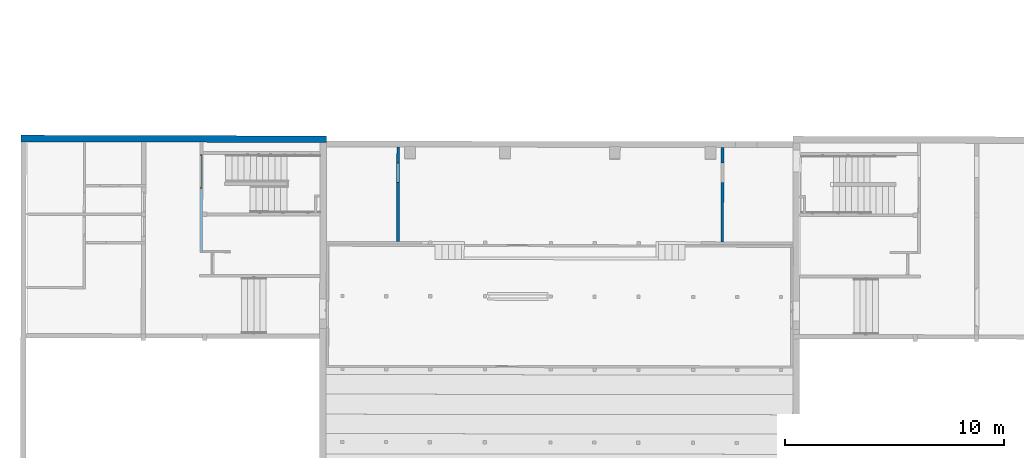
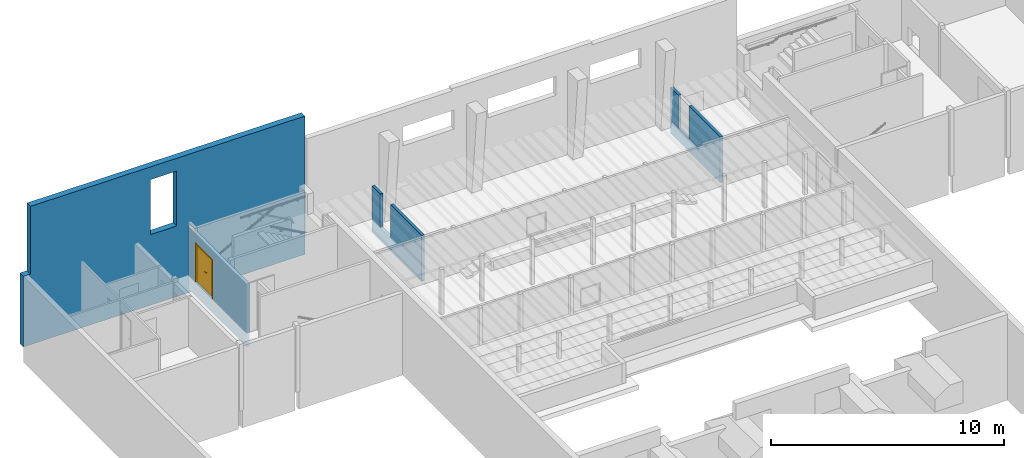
# One storey, part 18 of 24: 3 walls, 1 door, 2 openings, plus 1 element that does not belong to this part.
"""IFC2X3 building model written with IfcOpenShell, lengths in metres."""

from ifc_helpers import new_model, entity, si_unit, converted_unit, derived_unit, direction, frame, frame_2d, origin, place, context, subcontext, project, spatial, polyline, rectangle, outline, extrude, faceted_brep, source, transform, mapped, material, material_list, layer, layer_set, layer_usage, type_object, type_shapes, element, fill, save


model = new_model("IFC2X3")

# Units and contexts
model_context = context("Model", 3, precision=1e-05, world=origin(), true_north=direction((6.123233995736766e-17, 1.0)))
body_context = subcontext(model_context, "Body", "Model", "MODEL_VIEW")
ifc_project = project(units=[si_unit("LENGTHUNIT", "METRE"), si_unit("AREAUNIT", "SQUARE_METRE"), converted_unit("PLANEANGLEUNIT", "DEGREE", entity("IfcPlaneAngleMeasure", 0.017453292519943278), si_unit("PLANEANGLEUNIT", "RADIAN"), dimensions=[0, 0, 0, 0, 0, 0, 0]), derived_unit("THERMALTRANSMITTANCEUNIT", [(si_unit("MASSUNIT", "GRAM", prefix="KILO"), 1), (si_unit("THERMODYNAMICTEMPERATUREUNIT", "KELVIN"), -1), (si_unit("TIMEUNIT", "SECOND"), -3)])], contexts=[model_context])

# Site, building, storey
site_placement = place(None, frame((1253.6752467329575, 2072.143113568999, 91.49999999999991), z_axis=(0.0, 0.0, 1.0), x_axis=(0.7237211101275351, 0.6900925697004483, 0.0)))
site = spatial("IfcSite", under=ifc_project, at=site_placement, Name="Surface", CompositionType="ELEMENT")
building_placement = place(site_placement, origin())
building = spatial("IfcBuilding", under=site, at=building_placement, CompositionType="ELEMENT")
storey_placement = place(building_placement, frame((0.0, 0.0, -7.049999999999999)))
storey = spatial("IfcBuildingStorey", under=building, at=storey_placement, Name="R-1", CompositionType="ELEMENT", Elevation=-7.049999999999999)

# Wall
ifc_material_1 = material(Name="OMD_Béton blanc")
ifc_layer_1 = layer(ifc_material_1, 0.12999999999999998)
ifc_layer_set_1 = layer_set([ifc_layer_1], Name="Mur de base:MUR 13")
wall_type_1 = type_object("IfcWallType", Name="Mur de base:MUR 13", PredefinedType="STANDARD", material=ifc_layer_set_1)
wall_1_placement = place(storey_placement, frame((178.27648964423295, 15.49141698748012, 0.0), z_axis=(0.0, 0.0, 1.0), x_axis=(-0.6919753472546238, -0.721921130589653, 0.0)))
element("IfcWall", 1, at=wall_1_placement, inside=storey, type_object=wall_type_1, Name="Mur de base:MUR 13", ObjectType="Mur de base:MUR 13", context=body_context, shape_type="Brep", body=[
    faceted_brep([(0.12977476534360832, -0.06499999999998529, 0.0), (4.300182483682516, -0.06499999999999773, 0.0), (4.300182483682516, -0.06499999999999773, 2.3950000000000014), (1.6157906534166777, -0.06499999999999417, 2.3950000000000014), (1.6157906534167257, -0.06500000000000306, 0.6400000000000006), (0.715790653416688, -0.06499999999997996, 0.6400000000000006), (0.7157906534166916, -0.06499999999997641, 2.3950000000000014), (0.00017843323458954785, -0.06500000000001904, 2.3950000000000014), (0.00017843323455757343, -0.06499999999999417, 0.0), (4.300004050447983, 0.06500000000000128, 0.0), (0.1297747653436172, 0.0649999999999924, 0.0), (0.0, 0.06500000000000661, 0.0), (0.0, 0.06500000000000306, 2.3950000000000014), (0.7157906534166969, 0.06499999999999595, 2.3950000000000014), (0.7157906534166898, 0.06499999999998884, 0.6400000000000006), (1.6157906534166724, 0.06500000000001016, 0.6400000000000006), (1.6157906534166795, 0.06500000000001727, 2.3950000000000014), (4.300004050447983, 0.06500000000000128, 2.3950000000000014)], [[[0, 1, 2, 3, 4, 5, 6, 7, 8]], [[9, 10, 11, 12, 13, 14, 15, 16, 17]], [[2, 17, 16, 3]], [[1, 0, 10, 9]], [[17, 2, 1, 9]], [[11, 10, 0, 8]], [[7, 12, 11, 8]], [[15, 4, 3, 16]], [[5, 14, 13, 6]], [[4, 15, 14, 5]], [[12, 7, 6, 13]]]),
])

# Wall, openings, door
ifc_layer_usage = layer_usage(ifc_layer_set_1, "AXIS2", "POSITIVE", -0.06499999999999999)
wall_2_placement = place(storey_placement, frame((171.9330059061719, 21.845365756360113, 0.0), z_axis=(0.0, 0.0, 1.0), x_axis=(-0.6909838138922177, -0.7228702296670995, 0.0)))
wall_2 = element("IfcWallStandardCase", 2, at=wall_2_placement, inside=storey, type_object=wall_type_1, material=ifc_layer_usage, Name="Mur de base:MUR 13", ObjectType="Mur de base:MUR 13", context=body_context, shape_type="SweptSolid", body=[
    extrude(outline(polyline([(-0.07244415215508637, -2.0239981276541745), (0.05755633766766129, -2.0239981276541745), (0.05736417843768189, -1.9539981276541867), (0.04376181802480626, 3.001086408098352), (-0.08623818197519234, 3.000907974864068), (-0.07244415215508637, -2.0239981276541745)])), frame((3.0011334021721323, 0.013000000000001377, 0.0), z_axis=(0.0, 0.0, 1.0), x_axis=(0.0027451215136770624, 0.9999962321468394, 0.0)), (0.0, 0.0, 1.0), 3.2999999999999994),
])
opening_1_placement = place(storey_placement, frame((171.9330059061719, 21.845365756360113, 0.0), z_axis=(0.0, 0.0, 1.0), x_axis=(-0.6909838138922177, -0.7228702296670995, 0.0)))
element("IfcOpeningElement", 3, at=opening_1_placement, cuts=wall_2, Name="Mur de base:MUR 13:1", ObjectType="Opening", context=body_context, shape_type="SweptSolid", body=[
    extrude(rectangle(XDim=2.085, YDim=1.5499999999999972, at=frame_2d((-3.3306690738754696e-16, -3.164135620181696e-15), x_axis=(1.0, 0.0))), frame((1.3299250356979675, 0.06499999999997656, 1.7725), z_axis=(0.0, -1.0, 0.0), x_axis=(0.0, 0.0, 1.0)), (0.0, 0.0, 1.0), 0.13000000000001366),
])
opening_2_placement = place(wall_2_placement, frame((0.554925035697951, -0.06500000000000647, 0.7299999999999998)))
opening_2 = element("IfcOpeningElement", 4, at=opening_2_placement, cuts=wall_2, Name="OMD_Porte 2V tunnel:140x204:1", ObjectType="Opening", context=body_context, shape_type="SweptSolid", body=[
    extrude(rectangle(XDim=2.085, YDim=1.5499999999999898, at=frame_2d((1.0425, 0.7749999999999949), x_axis=(1.0, 0.0))), frame((0.0, 0.0, 0.0), z_axis=(0.0, 1.0, 0.0), x_axis=(0.0, 0.0, 1.0)), (0.0, 0.0, 1.0), 0.12999999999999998),
])
ifc_material_2 = material(Name="<Unnamed>")
ifc_material_3 = material(Name="Porte - Poignée")
ifc_material_4 = material(Name="OMD_Bois")
ifc_material_list = material_list([ifc_material_2, ifc_material_3, ifc_material_4])
door_style = type_object("IfcDoorStyle", Name="OMD_Porte 2V tunnel:140x204", ConstructionType="NOTDEFINED", OperationType="NOTDEFINED", ParameterTakesPrecedence=False, Sizeable=False, material=ifc_material_list)
shared_shape = source(origin(), body_context, "Body", "Brep", [
    faceted_brep([(0.1450000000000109, 0.060000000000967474, 0.0), (0.6750000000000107, 0.060000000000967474, 0.0), (0.6750000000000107, 0.030000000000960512, 0.0), (0.1450000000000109, 0.030000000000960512, 0.0), (0.1450000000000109, 0.060000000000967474, 2.04), (0.1450000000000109, 0.030000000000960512, 2.04), (0.6750000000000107, 0.030000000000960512, 2.04), (0.6750000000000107, 0.060000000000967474, 2.04)], [[[0, 1, 2, 3]], [[4, 0, 3, 5]], [[5, 3, 2, 6]], [[6, 2, 1, 7]], [[7, 1, 0, 4]], [[4, 5, 6, 7]]]),
    faceted_brep([(0.7279747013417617, 0.06500000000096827, 1.0077804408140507), (0.7239999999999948, 0.06500000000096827, 1.0069999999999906), (0.7239999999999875, 0.06500000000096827, 0.9929999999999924), (0.7279747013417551, 0.06500000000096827, 0.9922195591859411), (0.7320252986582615, 0.06500000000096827, 0.9922195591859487), (0.7360000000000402, 0.06500000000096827, 0.9930000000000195), (0.7360000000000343, 0.06500000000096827, 1.0069999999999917), (0.7320252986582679, 0.06500000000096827, 1.007780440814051), (0.7360000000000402, 0.0874852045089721, 0.9930000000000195), (0.7360000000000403, 0.08748520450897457, 1.0069999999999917), (0.7320252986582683, 0.0891315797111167, 1.007780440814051), (0.7458389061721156, 0.10294518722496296, 1.007780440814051), (0.7441610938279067, 0.10699578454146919, 1.0077804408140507), (0.7279747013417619, 0.09080939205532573, 1.0077804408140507), (0.8356847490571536, 0.0964673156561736, 1.0077804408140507), (0.8385489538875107, 0.09933152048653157, 1.0077804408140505), (0.8308846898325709, 0.10699578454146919, 1.0077804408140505), (0.8292068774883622, 0.10294518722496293, 1.0077804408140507), (0.7239999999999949, 0.09245576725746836, 1.0069999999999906), (0.7239999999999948, 0.09245576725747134, 0.9929999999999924), (0.7279747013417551, 0.09080939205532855, 0.9922195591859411), (0.7441610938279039, 0.10699578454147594, 0.9922195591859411), (0.7458389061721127, 0.1029451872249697, 0.9922195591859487), (0.7320252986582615, 0.0891315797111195, 0.9922195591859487), (0.8385489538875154, 0.09933152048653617, 0.9922195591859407), (0.8356847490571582, 0.09646731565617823, 0.9922195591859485), (0.8292068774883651, 0.10294518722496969, 0.9922195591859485), (0.8308846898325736, 0.1069957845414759, 0.9922195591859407), (0.74748528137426, 0.09897048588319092, 0.9930000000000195), (0.7474852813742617, 0.09897048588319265, 1.0069999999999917), (0.7425147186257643, 0.11097048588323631, 1.0069999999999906), (0.7425147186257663, 0.11097048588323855, 0.9929999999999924), (0.787522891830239, 0.09897048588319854, 0.9930000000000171), (0.8275605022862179, 0.09897048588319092, 0.9930000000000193), (0.8275605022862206, 0.09897048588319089, 1.0069999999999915), (0.787522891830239, 0.09897048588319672, 1.0069999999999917), (0.7875228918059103, 0.10512492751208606, 1.0078781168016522), (0.8325310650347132, 0.11097048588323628, 1.0069999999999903), (0.7926005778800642, 0.1109704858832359, 1.0069999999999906), (0.8325310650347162, 0.11097048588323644, 0.9929999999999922), (0.7824452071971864, 0.11097048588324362, 0.9929999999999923), (0.7875228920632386, 0.10512492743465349, 0.9921218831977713), (0.8328742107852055, 0.09365677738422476, 0.9930000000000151), (0.8413594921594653, 0.10214205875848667, 0.99299999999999), (0.8413594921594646, 0.10214205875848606, 1.0069999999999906), (0.8328742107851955, 0.0936567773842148, 1.0069999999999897)], [[[0, 1, 2, 3, 4, 5, 6, 7]], [[6, 5, 8, 9]], [[9, 10, 7, 6]], [[10, 11, 12, 13, 0, 7]], [[14, 15, 16, 17]], [[13, 18, 1, 0]], [[2, 1, 18, 19]], [[19, 20, 3, 2]], [[20, 21, 22, 23, 4, 3]], [[24, 25, 26, 27]], [[23, 8, 5, 4]], [[9, 8, 28, 29]], [[29, 11, 10, 9]], [[12, 30, 18, 13]], [[19, 18, 30, 31]], [[31, 21, 20, 19]], [[22, 28, 8, 23]], [[29, 28, 32, 33, 34, 35]], [[11, 35, 36]], [[16, 37, 38]], [[30, 12, 38]], [[38, 12, 36]], [[36, 35, 17]], [[17, 16, 36]], [[35, 11, 29]], [[34, 17, 35]], [[11, 36, 12]], [[38, 36, 16]], [[31, 30, 38, 37, 39, 40]], [[40, 41, 21]], [[41, 40, 27]], [[21, 31, 40]], [[39, 27, 40]], [[41, 32, 22]], [[22, 21, 41]], [[26, 32, 41]], [[28, 22, 32]], [[32, 26, 33]], [[26, 41, 27]], [[42, 25, 24, 43, 44, 15, 14, 45]], [[34, 33, 42, 45]], [[45, 14, 17, 34]], [[15, 44, 37, 16]], [[39, 37, 44, 43]], [[43, 24, 27, 39]], [[25, 42, 33, 26]]]),
    faceted_brep([(0.7279747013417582, 0.02500000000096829, 1.0077804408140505), (0.7320252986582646, 0.02500000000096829, 1.007780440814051), (0.7360000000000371, 0.02500000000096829, 1.006999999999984), (0.7360000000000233, 0.02500000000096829, 0.9930000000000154), (0.7320252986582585, 0.02500000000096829, 0.9922195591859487), (0.7279747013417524, 0.02500000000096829, 0.992219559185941), (0.7239999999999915, 0.02500000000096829, 0.992999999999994), (0.7239999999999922, 0.02500000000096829, 1.0069999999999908), (0.7239999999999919, -0.002650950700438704, 1.0069999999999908), (0.727974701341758, -0.001004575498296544, 1.0077804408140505), (0.7440235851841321, -0.017053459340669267, 1.0077804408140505), (0.745701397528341, -0.013002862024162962, 1.007780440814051), (0.7320252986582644, 0.0006732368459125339, 1.007780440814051), (0.8385218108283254, -0.00938919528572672, 1.0077804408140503), (0.8356576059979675, -0.006524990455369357, 1.0077804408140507), (0.8291797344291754, -0.013002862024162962, 1.0077804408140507), (0.8308575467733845, -0.017053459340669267, 1.0077804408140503), (0.7360000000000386, 0.002319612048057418, 1.0069999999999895), (0.736000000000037, 0.0023196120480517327, 0.9930000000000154), (0.7320252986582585, 0.0006732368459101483, 0.9922195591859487), (0.7457013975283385, -0.013002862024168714, 0.9922195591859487), (0.7440235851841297, -0.017053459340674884, 0.992219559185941), (0.7279747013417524, -0.001004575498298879, 0.992219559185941), (0.8356576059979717, -0.006524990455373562, 0.9922195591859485), (0.8385218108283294, -0.009389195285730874, 0.9922195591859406), (0.8308575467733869, -0.0170534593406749, 0.9922195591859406), (0.8291797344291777, -0.013002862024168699, 0.9922195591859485), (0.7239999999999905, -0.002650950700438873, 0.9929999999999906), (0.7423772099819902, -0.02102816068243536, 1.0069999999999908), (0.7473477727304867, -0.009028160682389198, 1.0069999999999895), (0.7473477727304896, -0.009028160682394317, 0.9930000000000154), (0.7423772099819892, -0.021028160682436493, 0.9929999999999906), (0.7823076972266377, -0.021028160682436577, 1.0069999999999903), (0.7874405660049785, -0.01518280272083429, 1.0078781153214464), (0.8325039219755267, -0.02102816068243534, 1.0069999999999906), (0.7874405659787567, -0.009028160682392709, 1.0069999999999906), (0.8275333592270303, -0.009028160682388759, 1.0069999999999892), (0.827533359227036, -0.009028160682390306, 0.9930000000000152), (0.7874405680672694, -0.00902816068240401, 0.9930000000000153), (0.787440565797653, -0.015182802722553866, 0.9921218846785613), (0.832503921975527, -0.02102816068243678, 0.9929999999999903), (0.7925734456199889, -0.02102816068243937, 0.9929999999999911), (0.8328470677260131, -0.0037144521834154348, 1.0069999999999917), (0.8413323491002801, -0.012199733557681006, 1.0069999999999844), (0.841332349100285, -0.012199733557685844, 0.9929999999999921), (0.8328470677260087, -0.003714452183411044, 0.9930000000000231)], [[[0, 1, 2, 3, 4, 5, 6, 7]], [[8, 9, 0, 7]], [[9, 10, 11, 12, 1, 0]], [[13, 14, 15, 16]], [[12, 17, 2, 1]], [[3, 2, 17, 18]], [[18, 19, 4, 3]], [[19, 20, 21, 22, 5, 4]], [[23, 24, 25, 26]], [[22, 27, 6, 5]], [[7, 6, 27, 8]], [[28, 10, 9, 8]], [[11, 29, 17, 12]], [[18, 17, 29, 30]], [[30, 20, 19, 18]], [[21, 31, 27, 22]], [[8, 27, 31, 28]], [[32, 33, 10]], [[33, 32, 16]], [[10, 28, 32]], [[34, 16, 32]], [[33, 35, 11]], [[11, 10, 33]], [[15, 35, 33]], [[29, 11, 35]], [[35, 15, 36]], [[15, 33, 16]], [[30, 29, 35, 36, 37, 38]], [[20, 38, 39]], [[25, 40, 41]], [[31, 21, 41]], [[41, 21, 39]], [[39, 38, 26]], [[26, 25, 39]], [[38, 20, 30]], [[37, 26, 38]], [[20, 39, 21]], [[41, 39, 25]], [[28, 31, 41, 40, 34, 32]], [[42, 14, 13, 43, 44, 24, 23, 45]], [[43, 13, 16, 34]], [[14, 42, 36, 15]], [[37, 36, 42, 45]], [[45, 23, 26, 37]], [[24, 44, 40, 25]], [[34, 40, 44, 43]]]),
    faceted_brep([(0.7403527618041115, 0.060000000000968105, 0.8660039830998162), (0.7500000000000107, 0.060000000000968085, 0.8700000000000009), (0.7500000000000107, 0.060000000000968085, 1.0800000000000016), (0.7403527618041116, 0.060000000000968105, 1.0839960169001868), (0.730000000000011, 0.06000000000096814, 1.0853589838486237), (0.7196472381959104, 0.060000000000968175, 1.0839960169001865), (0.7100000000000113, 0.06000000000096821, 1.0800000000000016), (0.7100000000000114, 0.06000000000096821, 0.8700000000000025), (0.7196472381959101, 0.060000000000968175, 0.866003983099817), (0.7300000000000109, 0.06000000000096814, 0.8646410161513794), (0.7403527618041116, 0.06500000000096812, 1.0839960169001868), (0.7500000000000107, 0.06500000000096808, 1.0800000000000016), (0.7500000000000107, 0.06500000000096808, 0.8700000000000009), (0.7403527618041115, 0.06500000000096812, 0.8660039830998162), (0.7300000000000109, 0.06500000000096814, 0.8646410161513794), (0.7196472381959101, 0.06500000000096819, 0.866003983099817), (0.7100000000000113, 0.0650000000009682, 0.8700000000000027), (0.7100000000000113, 0.0650000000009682, 1.0800000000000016), (0.7196472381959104, 0.06500000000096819, 1.0839960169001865), (0.730000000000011, 0.06500000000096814, 1.0853589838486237)], [[[0, 1, 2, 3, 4, 5, 6, 7, 8, 9]], [[10, 11, 12, 13, 14, 15, 16, 17, 18, 19]], [[11, 10, 3, 2]], [[3, 10, 19, 4]], [[19, 18, 5, 4]], [[18, 17, 6, 5]], [[7, 6, 17, 16]], [[16, 15, 8, 7]], [[8, 15, 14, 9]], [[14, 13, 0, 9]], [[13, 12, 1, 0]], [[2, 1, 12, 11]]]),
    faceted_brep([(0.7403527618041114, 0.025000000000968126, 0.8660039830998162), (0.7500000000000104, 0.025000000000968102, 0.8700000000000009), (0.7500000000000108, 0.025000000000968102, 1.0800000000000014), (0.7403527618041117, 0.025000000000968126, 1.0839960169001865), (0.730000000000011, 0.02500000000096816, 1.0853589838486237), (0.7196472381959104, 0.025000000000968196, 1.0839960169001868), (0.7100000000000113, 0.02500000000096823, 1.0800000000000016), (0.7100000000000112, 0.02500000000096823, 0.8700000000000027), (0.71964723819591, 0.025000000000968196, 0.8660039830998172), (0.7300000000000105, 0.02500000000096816, 0.8646410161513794), (0.7403527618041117, 0.030000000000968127, 1.0839960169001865), (0.7500000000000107, 0.030000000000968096, 1.0800000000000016), (0.7500000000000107, 0.030000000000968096, 0.8700000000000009), (0.7403527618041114, 0.030000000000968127, 0.8660039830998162), (0.7300000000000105, 0.030000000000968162, 0.8646410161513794), (0.71964723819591, 0.030000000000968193, 0.8660039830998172), (0.7100000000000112, 0.030000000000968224, 0.8700000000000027), (0.7100000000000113, 0.030000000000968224, 1.0800000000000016), (0.7196472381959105, 0.030000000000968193, 1.0839960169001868), (0.7300000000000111, 0.030000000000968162, 1.0853589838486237)], [[[0, 1, 2, 3, 4, 5, 6, 7, 8, 9]], [[10, 11, 12, 13, 14, 15, 16, 17, 18, 19]], [[16, 15, 8, 7]], [[8, 15, 14, 9]], [[14, 13, 0, 9]], [[13, 12, 1, 0]], [[2, 1, 12, 11]], [[11, 10, 3, 2]], [[3, 10, 19, 4]], [[19, 18, 5, 4]], [[18, 17, 6, 5]], [[7, 6, 17, 16]]]),
    faceted_brep([(0.6750000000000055, 0.060000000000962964, 0.0), (1.6050000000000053, 0.060000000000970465, 0.0), (1.6050000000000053, 0.030000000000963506, 0.0), (0.675000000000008, 0.030000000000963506, 0.0), (0.6750000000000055, 0.060000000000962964, 2.04), (0.675000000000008, 0.030000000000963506, 2.04), (1.6050000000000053, 0.030000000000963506, 2.04), (1.6050000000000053, 0.060000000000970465, 2.04)], [[[0, 1, 2, 3]], [[4, 0, 3, 5]], [[5, 3, 2, 6]], [[6, 2, 1, 7]], [[7, 1, 0, 4]], [[4, 5, 6, 7]]]),
    faceted_brep([(0.10000000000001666, 0.03000000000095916, 0.0), (0.10000000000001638, 0.13000000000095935, 0.0), (0.1600000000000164, 0.13000000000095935, 0.0), (0.16000000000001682, 0.06000000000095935, 0.0), (0.14500000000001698, 0.0600000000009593, 0.0), (0.14500000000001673, 0.030000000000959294, 0.0), (0.14500000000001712, 0.03000000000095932, 2.039999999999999), (1.6050000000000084, 0.030000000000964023, 2.039999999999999), (1.6050000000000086, 0.030000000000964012, 0.0), (1.6500000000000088, 0.03000000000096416, 0.0), (1.6500000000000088, 0.030000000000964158, 2.0849999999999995), (0.10000000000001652, 0.03000000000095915, 2.085), (0.14500000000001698, 0.0600000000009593, 2.039999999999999), (0.16000000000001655, 0.060000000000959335, 2.0249999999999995), (1.590000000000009, 0.06000000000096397, 2.0249999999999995), (1.590000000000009, 0.06000000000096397, 0.0), (1.6050000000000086, 0.06000000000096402, 0.0), (1.6050000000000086, 0.06000000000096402, 2.0399999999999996), (0.1600000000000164, 0.13000000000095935, 2.0249999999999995), (0.10000000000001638, 0.13000000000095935, 2.0849999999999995), (1.6500000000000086, 0.13000000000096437, 2.0849999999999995), (1.6500000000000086, 0.13000000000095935, 0.0), (1.5900000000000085, 0.13000000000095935, 0.0), (1.5900000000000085, 0.13000000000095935, 2.0249999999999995)], [[[0, 1, 2, 3, 4, 5]], [[5, 6, 7, 8, 9, 10, 11, 0]], [[4, 12, 6, 5]], [[3, 13, 14, 15, 16, 17, 12, 4]], [[2, 18, 13, 3]], [[1, 19, 20, 21, 22, 23, 18, 2]], [[0, 11, 19, 1]], [[10, 9, 21, 20]], [[9, 8, 16, 15, 22, 21]], [[17, 16, 8, 7]], [[23, 22, 15, 14]], [[12, 17, 7, 6]], [[18, 23, 14, 13]], [[11, 10, 20, 19]]]),
])
type_shapes(door_style, [shared_shape])
door_placement = place(opening_2_placement, frame((1.6499999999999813, 0.130000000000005, 0.0), z_axis=(0.0, 0.0, 1.0), x_axis=(-1.0, 0.0, 0.0)))
door = element("IfcDoor", 5, at=door_placement, inside=storey, type_object=door_style, material=ifc_material_list, Name="OMD_Porte 2V tunnel:140x204", ObjectType="OMD_Porte 2V tunnel:140x204", OverallHeight=2.085, OverallWidth=1.5499999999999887, context=body_context, shape_type="MappedRepresentation", body=[
    mapped(shared_shape, transform((0.0, 0.0, 0.0), scale=1.0)),
])
fill(opening_2, door)

# Walls
wall_3_placement = place(storey_placement, frame((188.96774034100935, 5.271766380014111, 0.0), z_axis=(0.0, 0.0, 1.0), x_axis=(-0.6919753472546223, -0.7219211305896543, 0.0)))
element("IfcWall", 6, at=wall_3_placement, inside=storey, type_object=wall_type_1, Name="Mur de base:MUR 13", ObjectType="Mur de base:MUR 13", context=body_context, shape_type="Brep", body=[
    faceted_brep([(0.000178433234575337, -0.06500000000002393, 0.0), (4.300182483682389, -0.06500000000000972, 0.0), (4.300182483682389, -0.06500000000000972, 2.392777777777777), (1.5999062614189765, -0.06500000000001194, 2.392777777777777), (1.5999062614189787, -0.06500000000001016, 0.6500000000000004), (0.6999062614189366, -0.06500000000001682, 0.6500000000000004), (0.6999062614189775, -0.0650000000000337, 2.392777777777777), (0.00017843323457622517, -0.06500000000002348, 2.392777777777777), (4.300004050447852, 0.06499999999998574, 0.0), (0.0, 0.06499999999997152, 0.0), (0.0, 0.06499999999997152, 2.392777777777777), (0.6999062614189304, 0.06499999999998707, 2.392777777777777), (0.69990626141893, 0.06499999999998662, 0.6500000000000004), (1.5999062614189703, 0.06499999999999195, 0.6500000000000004), (1.5999062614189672, 0.06499999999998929, 2.392777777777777), (4.300004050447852, 0.06499999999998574, 2.392777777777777)], [[[0, 1, 2, 3, 4, 5, 6, 7]], [[8, 9, 10, 11, 12, 13, 14, 15]], [[2, 15, 14, 3]], [[1, 0, 9, 8]], [[13, 4, 3, 14]], [[5, 12, 11, 6]], [[4, 13, 12, 5]], [[15, 2, 1, 8]], [[0, 7, 10, 9]], [[10, 7, 6, 11]]]),
])
ifc_layer_2 = layer(ifc_material_1, 0.29999999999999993)
ifc_layer_set_2 = layer_set([ifc_layer_2], Name="Mur de base:MUR 30")
wall_type_2 = type_object("IfcWallType", Name="Mur de base:MUR 30", PredefinedType="STANDARD", material=ifc_layer_set_2)
wall_4_placement = place(storey_placement, frame((176.15598048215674, 18.00521840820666, -0.2), z_axis=(0.0, 0.0, 1.0), x_axis=(-0.7219211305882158, 0.6919753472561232, 0.0)))
element("IfcWall", 7, at=wall_4_placement, inside=storey, type_object=wall_type_2, Name="Mur de base:MUR 30", ObjectType="Mur de base:MUR 30", context=body_context, shape_type="Brep", body=[
    faceted_brep([(13.582333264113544, -0.14999999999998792, 7.249999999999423), (0.0004117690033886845, -0.15000000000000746, 7.249999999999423), (0.0002546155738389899, -0.14999999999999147, 6.699999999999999), (0.00041176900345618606, -0.1499999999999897, 3.6999999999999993), (0.00041176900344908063, -0.1499999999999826, 0.0), (13.932333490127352, -0.14999999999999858, 0.0), (13.93233349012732, -0.14999999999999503, 3.6999999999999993), (13.582333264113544, -0.14999999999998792, 3.6999999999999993), (6.345255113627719, -0.14999999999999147, 3.6999999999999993), (6.345255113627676, -0.14999999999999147, 6.579999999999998), (7.644951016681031, -0.14999999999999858, 6.579999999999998), (7.6449510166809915, -0.14999999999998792, 3.6999999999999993), (6.3452551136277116, 0.14999999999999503, 6.579999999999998), (6.345255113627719, 0.14999999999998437, 3.6999999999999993), (7.6449510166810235, 0.14999999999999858, 3.6999999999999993), (7.644951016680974, 0.15000000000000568, 6.579999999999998), (0.0, 0.14999999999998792, 7.249999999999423), (0.30000028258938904, 0.14999999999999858, 7.249999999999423), (5.640945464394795, 0.14999999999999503, 7.249999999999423), (5.770945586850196, 0.1499999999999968, 7.249999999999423), (13.581992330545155, 0.15000000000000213, 7.249999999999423), (13.581992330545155, 0.15000000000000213, 3.6999999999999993), (13.691992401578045, 0.14999999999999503, 3.6999999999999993), (13.931992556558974, 0.14999999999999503, 3.6999999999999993), (13.931992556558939, 0.14999999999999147, 0.0), (0.0, 0.14999999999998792, 0.0), (0.00011507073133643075, 0.14999999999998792, 3.6999999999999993), (0.00011507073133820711, 0.14999999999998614, 4.198099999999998), (0.0, 0.1499999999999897, 6.699999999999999)], [[[0, 1, 2, 3, 4, 5, 6, 7], [8, 9, 10, 11]], [[12, 13, 14, 15], [16, 17, 18, 19, 20, 21, 22, 23, 24, 25, 26, 27, 28]], [[1, 0, 20, 19, 18, 17, 16]], [[5, 4, 25, 24]], [[8, 13, 12, 9]], [[9, 12, 15, 10]], [[10, 15, 14, 11]], [[13, 8, 11, 14]], [[4, 3, 26, 25]], [[3, 2, 28, 27, 26]], [[7, 6, 23, 22, 21]], [[5, 24, 23, 6]], [[20, 0, 7, 21]], [[1, 16, 28, 2]]], outer=[[True, False], [False, True], [True], [True], [True], [True], [True], [True], [True], [True], [True], [True], [True], [True]]),
])

save(model, "model.ifc")
